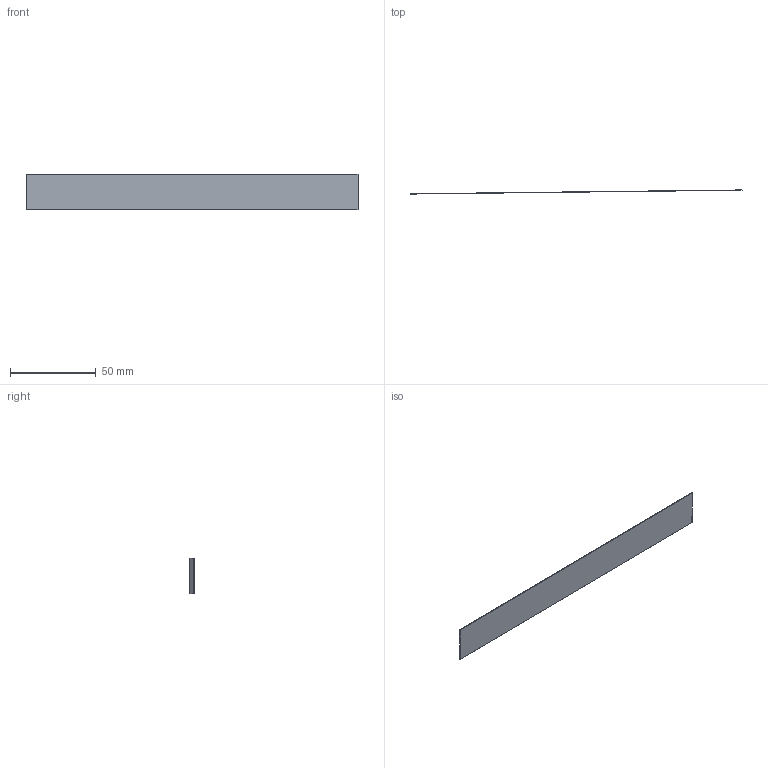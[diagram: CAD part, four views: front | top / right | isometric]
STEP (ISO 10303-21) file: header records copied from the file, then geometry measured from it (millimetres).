
FILE_DESCRIPTION(('Open CASCADE Model'),'2;1');
FILE_NAME('Open CASCADE Shape Model','2026-10-04T02:31:47',('Author'),( 'Open CASCADE'),'Open CASCADE STEP processor 8.0','Open CASCADE 8.0' ,'Unknown');
FILE_SCHEMA(('AUTOMOTIVE_DESIGN { 1 0 10303 214 1 1 1 1 }'));
Length unit declared in the file: millimetre
Products named in the file (1): Open CASCADE STEP translator 8.0 412
Bounding box: 193.78 x 2.39 x 21 mm (x, y, z)
Volume: 610.4 mm3; surface area: 8203.6 mm2
Topology: 1 solids, 1 shells, 6 faces, 12 edges, 8 vertices
Faces by surface type: plane 6
Entity records: 322 total; most frequent: CARTESIAN_POINT 51, DIRECTION 50, LINE 36, VECTOR 36, ORIENTED_EDGE 24, PCURVE 24, DEFINITIONAL_REPRESENTATION 24, EDGE_CURVE 12
